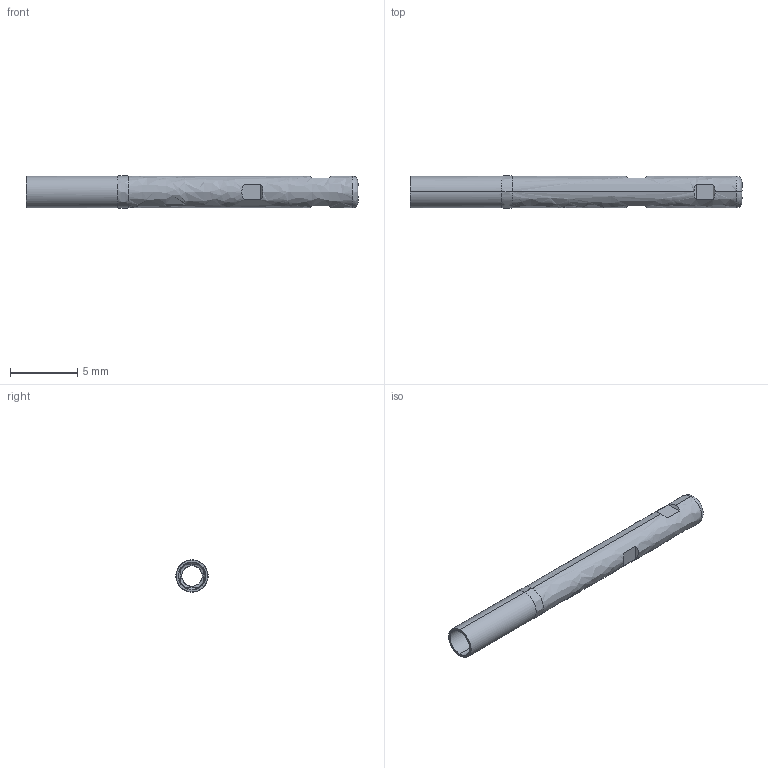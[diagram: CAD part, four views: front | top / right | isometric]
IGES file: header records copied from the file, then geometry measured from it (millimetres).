
Start section: SolidWorks IGES file using analytic representation for surfaces
Global section: file name: \\CODA-VM-SBS\RedirectedFolders\georged\My Documents\CODA CAD FILES\GENERAL PURPOSE TEST PROBES\MEDIUM REACH TEST PROBES\PA5 SERIES\RA5P.IGS; native system: SolidWorks 2024; preprocessor: SolidWorks 2024; author: GeorgeD; date: 240904.150933; units: inch
Bounding box: 24.77 x 2.45 x 2.46 mm (x, y, z)
Surface area: 347.2 mm2 (no closed solid volume)
Topology: 0 solids, 0 shells, 43 faces, 336 edges, 336 vertices
Faces by surface type: bspline 43
